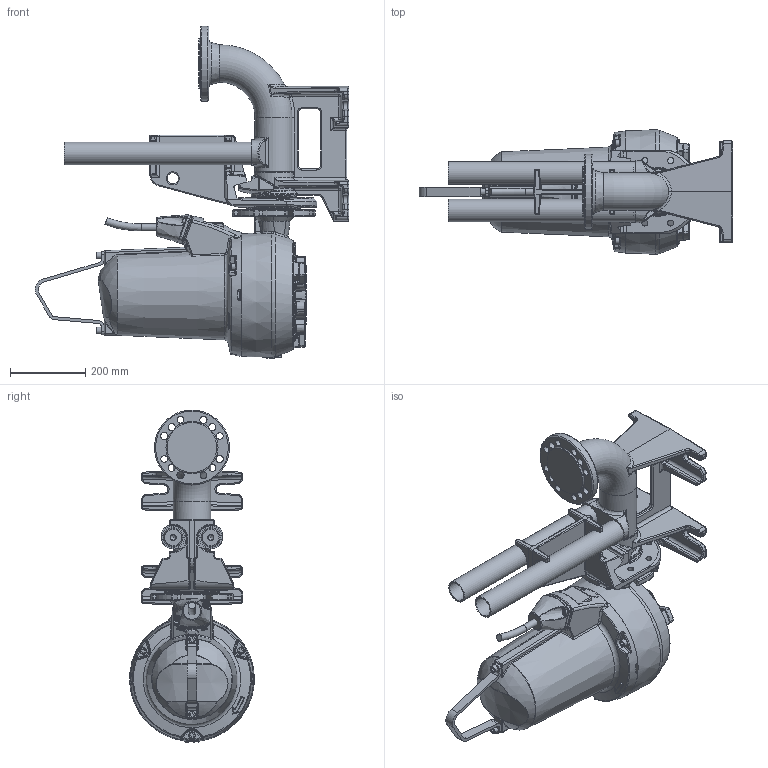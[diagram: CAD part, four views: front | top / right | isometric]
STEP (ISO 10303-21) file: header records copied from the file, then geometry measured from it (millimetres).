
FILE_DESCRIPTION (( 'STEP AP203' ), '1' );
FILE_NAME ('XFP80E-CB1_PE2A_Wet_Dual Rail-.step', '2024-01-16T15:56:07', ( '' ), ( '' ), 'SwSTEP 2.0', 'SolidWorks 2017', '' );
FILE_SCHEMA (( 'CONFIG_CONTROL_DESIGN' ));
Length unit declared in the file: millimetre
Products named in the file (2): XFP80E-CB1_PE2A_Wet_Dual Rail-
Bounding box: 835.93 x 332.54 x 885.21 mm (x, y, z)
Volume: 41118040.9 mm3; surface area: 1937680.8 mm2
Topology: 15 solids, 16 shells, 2680 faces, 6424 edges, 3667 vertices
Faces by surface type: bspline 1025, cylinder 688, plane 494, torus 282, cone 96, sphere 95
Full cylindrical faces by diameter (mm): 6 x1, 6.8 x2, 8 x4, 8.5 x4, 9 x2, 10 x4, 10.2 x5, 12 x10, 12.5 x2, 13 x5, 14 x2, 16 x12, 18 x9, 18.7 x1, 19 x8, 30 x1, 52.5 x2, 54 x2, 60.3 x2, 62 x1, 133 x2, 200 x1, 222 x1
Entity records: 126231 total; most frequent: CARTESIAN_POINT 73930, ORIENTED_EDGE 12106, DIRECTION 9014, EDGE_CURVE 6053, AXIS2_PLACEMENT_3D 3725, VERTEX_POINT 3606, EDGE_LOOP 2943, FACE_OUTER_BOUND 2798
